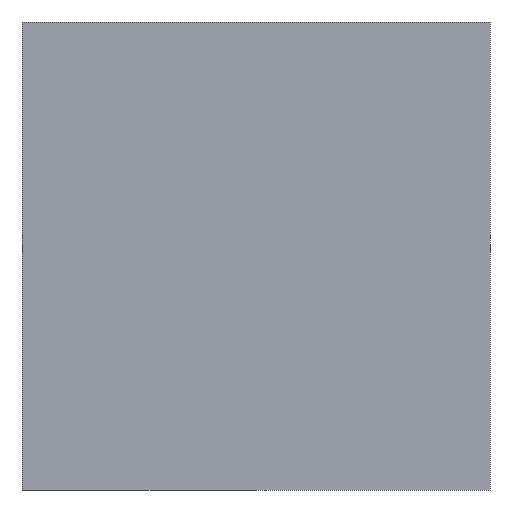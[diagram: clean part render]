
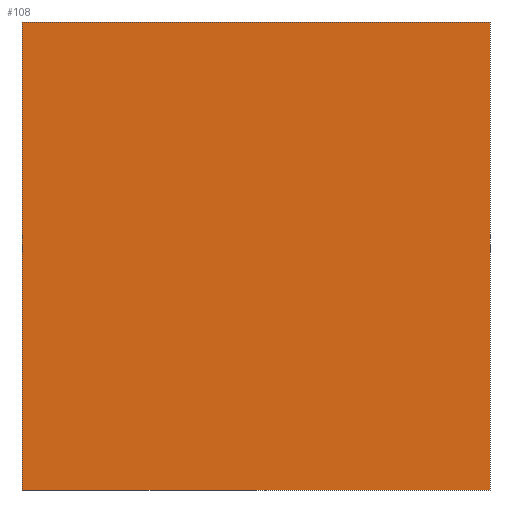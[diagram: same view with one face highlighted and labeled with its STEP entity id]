
A CAD part, left-side view. The second image highlights one B-rep face of the part: STEP entity #108.
In plain terms, the highlighted planar face has unit normal (-1, 0, 0).
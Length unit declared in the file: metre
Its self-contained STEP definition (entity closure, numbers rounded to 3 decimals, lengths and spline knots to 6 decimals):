
#28=ORIENTED_EDGE('',*,*,#39,.T.);
#29=ORIENTED_EDGE('',*,*,#46,.F.);
#30=ORIENTED_EDGE('',*,*,#41,.F.);
#31=ORIENTED_EDGE('',*,*,#47,.T.);
#39=EDGE_CURVE('',#49,#51,#59,.T.);
#41=EDGE_CURVE('',#53,#54,#61,.T.);
#46=EDGE_CURVE('',#54,#51,#66,.T.);
#47=EDGE_CURVE('',#53,#49,#67,.T.);
#49=VERTEX_POINT('',#196);
#51=VERTEX_POINT('',#200);
#53=VERTEX_POINT('',#205);
#54=VERTEX_POINT('',#207);
#59=LINE('',#201,#71);
#61=LINE('',#206,#73);
#66=LINE('',#215,#78);
#67=LINE('',#217,#79);
#71=VECTOR('',#173,1.);
#73=VECTOR('',#177,1.);
#78=VECTOR('',#186,1.);
#79=VECTOR('',#189,1.);
#84=EDGE_LOOP('',(#28,#29,#30,#31));
#90=FACE_BOUND('',#84,.T.);
#96=PLANE('',#164);
#108=ADVANCED_FACE('',(#90),#96,.F.);
#164=AXIS2_PLACEMENT_3D('',#216,#187,#188);
#173=DIRECTION('',(0.,-1.,0.));
#177=DIRECTION('',(0.,-1.,0.));
#186=DIRECTION('',(0.,0.,-1.));
#187=DIRECTION('',(1.,0.,0.));
#188=DIRECTION('',(0.,1.,0.));
#189=DIRECTION('',(0.,0.,-1.));
#196=CARTESIAN_POINT('',(0.0024,0.012625,0.0005));
#200=CARTESIAN_POINT('',(0.0024,0.011375,0.0005));
#201=CARTESIAN_POINT('',(0.0024,0.011375,0.0005));
#205=CARTESIAN_POINT('',(0.0024,0.012625,0.00175));
#206=CARTESIAN_POINT('',(0.0024,0.011375,0.00175));
#207=CARTESIAN_POINT('',(0.0024,0.011375,0.00175));
#215=CARTESIAN_POINT('',(0.0024,0.011375,0.00175));
#216=CARTESIAN_POINT('',(0.0024,0.011375,0.00175));
#217=CARTESIAN_POINT('',(0.0024,0.012625,0.00175));
